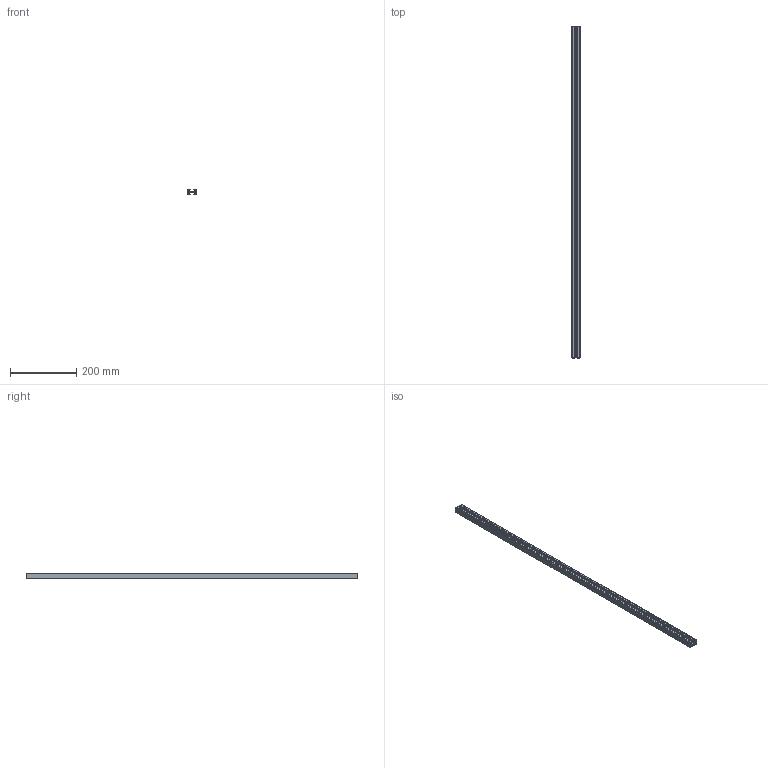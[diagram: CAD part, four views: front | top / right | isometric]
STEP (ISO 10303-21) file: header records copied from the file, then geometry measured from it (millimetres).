
FILE_DESCRIPTION (( 'STEP AP214' ), '1' );
FILE_NAME ('PEP2518-1000.STEP', '2019-10-30T00:58:25', ( '微软用户' ), ( '微软中国' ), 'SwSTEP 2.0', 'SolidWorks 2016', '' );
FILE_SCHEMA (( 'AUTOMOTIVE_DESIGN' ));
Length unit declared in the file: millimetre
Products named in the file (1): PEP2518-1000
Bounding box: 25 x 1000 x 18 mm (x, y, z)
Volume: 167838.3 mm3; surface area: 222150.3 mm2
Topology: 1 solids, 1 shells, 119 faces, 351 edges, 234 vertices
Faces by surface type: cylinder 67, plane 52
Entity records: 4061 total; most frequent: DIRECTION 725, CARTESIAN_POINT 705, ORIENTED_EDGE 702, EDGE_CURVE 351, AXIS2_PLACEMENT_3D 254, VERTEX_POINT 234, LINE 217, VECTOR 217
